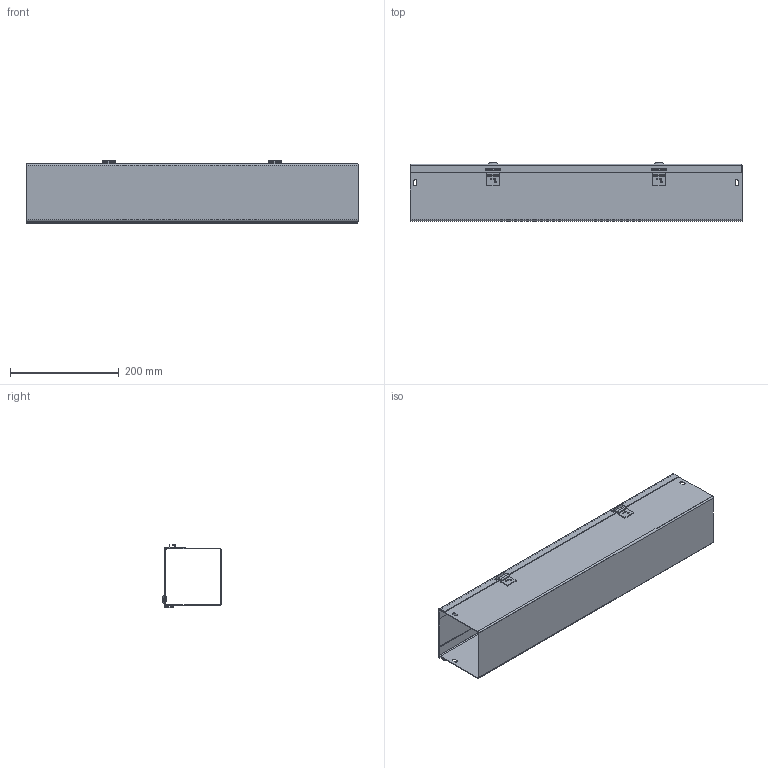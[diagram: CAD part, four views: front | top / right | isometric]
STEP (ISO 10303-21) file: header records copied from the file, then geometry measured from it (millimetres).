
FILE_DESCRIPTION (( 'STEP AP203' ), '1' );
FILE_NAME ('f44g24.STEP', '2013-01-18T17:37:29', ( 'User' ), ( 'Pentair Inc' ), 'SwSTEP 2.0', 'SolidWorks 2010', '' );
FILE_SCHEMA (( 'CONFIG_CONTROL_DESIGN' ));
Length unit declared in the file: inch
Products named in the file (4): Hinge_16104001; F40PF_StraightSectionBody_4x4x24; F40PF_StraightSectionCover_4x4x24; f44g24
Assembly tree (4 placements, depth 2):
  f44g24
    F40PF_StraightSectionBody_4x4x24
    F40PF_StraightSectionCover_4x4x24
    Hinge_16104001  x2
Bounding box: 609.6 x 107.11 x 115.9 mm (x, y, z)
Volume: 410675.8 mm3; surface area: 592926.1 mm2
Topology: 4 solids, 4 shells, 208 faces, 486 edges, 292 vertices
Faces by surface type: plane 130, cylinder 62, cone 12, torus 4
Entity records: 5493 total; most frequent: DIRECTION 909, CARTESIAN_POINT 849, ORIENTED_EDGE 830, EDGE_CURVE 415, AXIS2_PLACEMENT_3D 310, VECTOR 289, LINE 289, VERTEX_POINT 250
